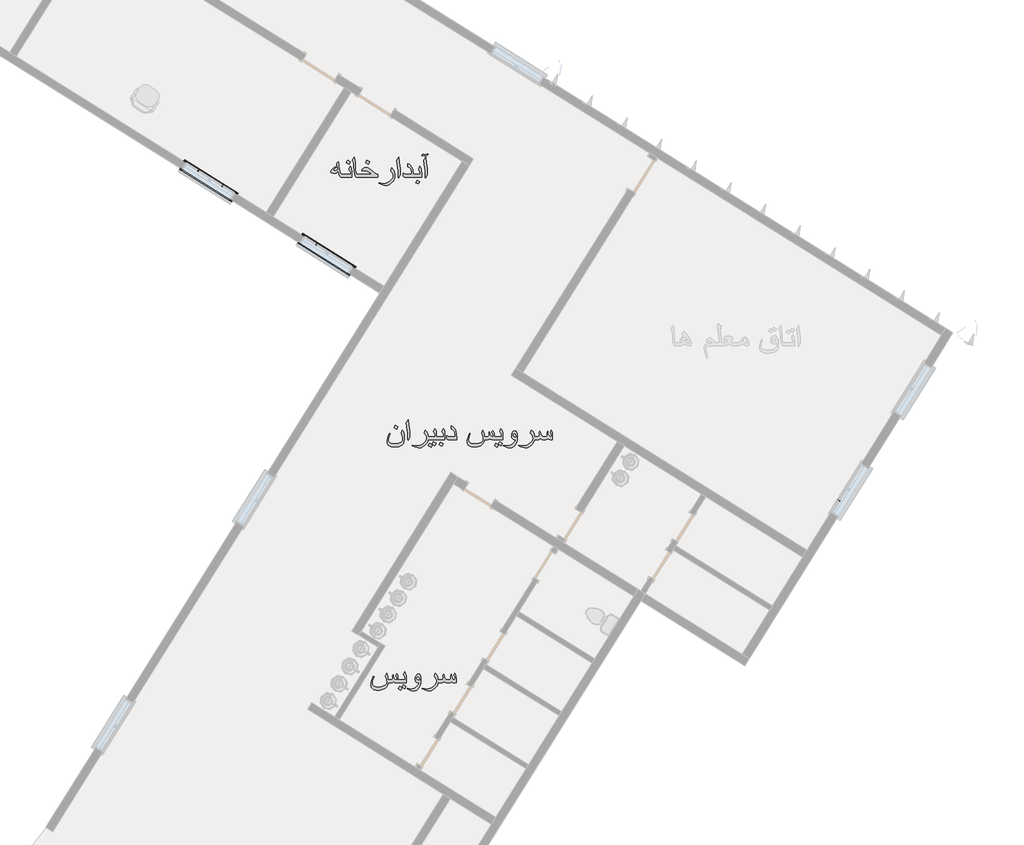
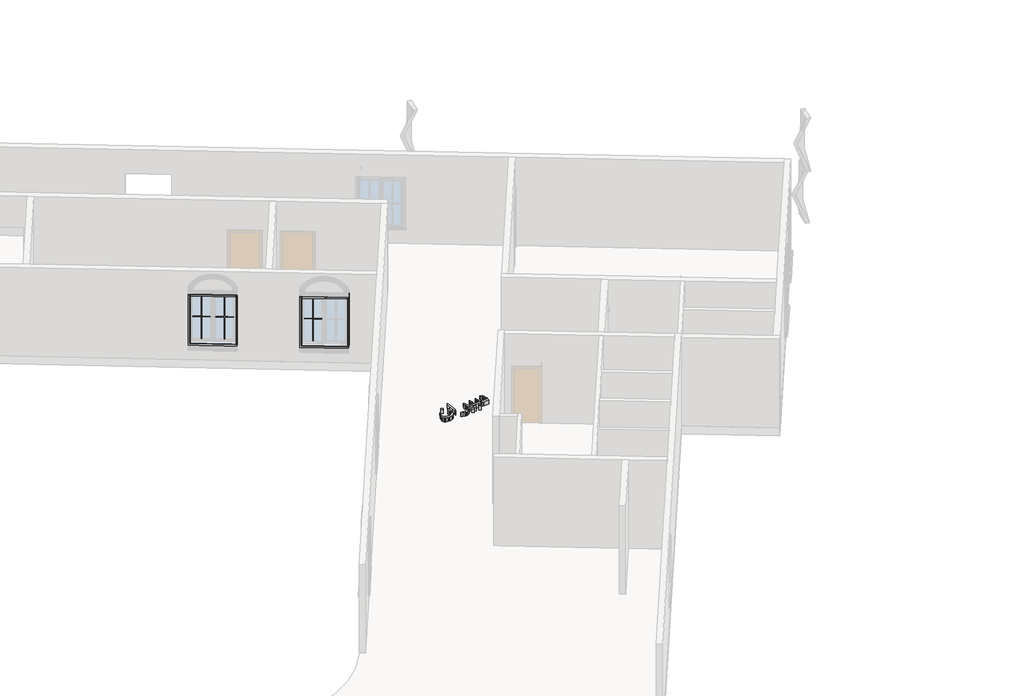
# One storey, part 9 of 12: 11 proxies.
"""IFC4 building model written with IfcOpenShell, lengths in millimetres."""

from ifc_helpers import new_model, si_unit, origin, origin_with_axes, place, context, project, spatial, polyline, outline, extrude, transform, mapped, element, save
from components import m_muntin_pattern_2x2_m_muntin_pattern_2x2_d2d4b859, m_muntin_pattern_2x2_m_muntin_pattern_2x2_f3921bb5, m_trim_window_exterior_flat_with_sill_88aaac3a, m_trim_window_interior_flat_picture_frame_896fcfd1

model = new_model("IFC4")

# Units and contexts
model_context = context("Model", 3, world=origin())
ifc_project = project(units=[si_unit("LENGTHUNIT", "METRE", prefix="MILLI")], contexts=[model_context])

# Site, building, storey
site = spatial("IfcSite", under=ifc_project)
building = spatial("IfcBuilding", under=site)
storey = spatial("IfcBuildingStorey", under=building, Name="\u200fهمکف", Elevation=0.0)

# Proxies
placement = place(None, origin())
element("IfcBuildingElementProxy", 1, Name="600mm Arial", ObjectType="600mm Arial", at=placement, inside=storey, context=model_context, shape_type="SweptSolid", body=[
    extrude(outline(polyline([(48086.9214701, -32228.1125939), (47879.7303304, -32228.1125939), (47851.4769932, -32228.1125939), (47823.8122672, -32228.1125939), (47810.1730422, -32224.5625326), (47797.3615517, -32213.9123488), (47785.3777957, -32196.1620426), (47774.2217742, -32171.3116138), (47759.7640118, -32122.7879786), (47748.4700345, -32061.9770848), (47734.6192774, -32088.372618), (47717.4943706, -32108.109487), (47698.2357481, -32120.4151398), (47677.9838443, -32124.517024), (47635.1071977, -32122.8063727), (47600.0664377, -32117.6744189), (47576.7243251, -32109.9305029), (47570.888797, -32105.3825617), (47568.9436209, -32100.3839651), (47571.7533196, -32080.900015), (47580.1824159, -32060.4135863), (47594.2309095, -32038.9246793), (47613.8988007, -32016.4332938), (47664.5009691, -31973.3727063), (47726.3971148, -31936.1614425), (47722.5711421, -31919.0181415), (47719.6280861, -31901.7276877), (47722.2400483, -31887.0491961), (47730.0759348, -31870.6784473), (47752.5903129, -31841.9836517), (47760.536564, -31893.3399782), (47770.1014959, -31944.6963048), (47781.7265669, -32018.4198566), (47799.2377499, -32108.1830634), (47811.4882203, -32141.6235368), (47817.7514113, -32149.9836551), (47824.1065728, -32152.7703612), (47851.4769932, -32152.7703612), (47879.7303304, -32152.7703612), (48058.6681329, -32152.7703612), (48055.9825943, -32110.868602), (48047.9259786, -32080.2240318), (48035.1604734, -32059.1443935), (48011.5792375, -32030.3392332), (48044.5414643, -31954.9970006), (48065.7314672, -31989.4675436), (48077.2093854, -32015.4768006), (48084.4934489, -32059.0708171), (48086.9214701, -32124.2227184), (48086.9214701, -32228.1125939)]), holes=[polyline([(47742.5839226, -32025.0417325), (47734.0490603, -31983.2503379), (47702.4847852, -31995.4088378), (47678.4253027, -32008.0455843), (47659.7368973, -32022.9631992), (47644.2858535, -32041.9643043), (47664.2986341, -32047.261805), (47695.9364856, -32049.1747914), (47719.8856035, -32043.1415267), (47742.5839226, -32025.0417325)])]), origin_with_axes(), (0.0, 0.0, 1.0), 150.0),
    extrude(outline(polyline([(48049.2503538, -31848.6055276), (48018.6425718, -31907.9081052), (47955.072563, -31873.4743505), (47984.0616643, -31813.7303145), (48049.2503538, -31848.6055276)])), origin_with_axes(), (0.0, 0.0, 1.0), 150.0),
    extrude(outline(polyline([(48717.9126682, -32228.1125939), (48275.2770516, -32228.1125939), (48247.0237144, -32228.1125939), (48219.653294, -32228.1125939), (48195.3730823, -32222.5575757), (48176.3903713, -32205.8925213), (48163.8455953, -32181.8698271), (48154.75891, -32148.3557773), (48143.4281446, -32054.1779865), (48138.4985258, -31960.7359598), (48131.7294971, -31888.0424775), (48120.4723081, -31847.575458), (48110.0980358, -31829.4756639), (48096.3392492, -31813.7303145), (48148.1370341, -31738.3880819), (48158.5480946, -31790.406596), (48165.3539115, -31851.6957364), (48171.6814818, -32046.0845826), (48180.6945907, -32103.7684795), (48193.0186375, -32136.1420951), (48204.9748024, -32148.6132947), (48217.8874604, -32152.7703612), (48247.0237144, -32152.7703612), (48275.2770516, -32152.7703612), (48576.6459821, -32152.7703612), (48506.1597918, -32102.5912571), (48472.0939191, -32083.2774523), (48441.1182551, -32070.0704887), (48407.7881463, -32061.46205), (48374.0165791, -32058.5925705), (48331.7837261, -32061.3884736), (48345.5793009, -32033.0247718), (48363.1272721, -32010.9150639), (48378.0356899, -31998.8117463), (48394.8019119, -31990.1665194), (48413.4259379, -31984.9793832), (48433.907768, -31983.2503379), (48455.8335349, -31985.8439059), (48479.6722882, -31993.6246101), (48505.4240278, -32006.5924505), (48533.0887539, -32024.7474269), (48625.6478638, -32103.7684795), (48667.4760467, -32138.6804808), (48693.1909982, -32152.7703612), (48717.9126682, -32152.7703612), (48717.9126682, -32228.1125939)])), origin_with_axes(), (0.0, 0.0, 1.0), 150.0),
    extrude(outline(polyline([(48520.1393076, -31848.6055276), (48489.5315256, -31907.9081052), (48425.9615169, -31873.4743505), (48454.9506181, -31813.7303145), (48520.1393076, -31848.6055276)])), origin_with_axes(), (0.0, 0.0, 1.0), 150.0),
    extrude(outline(polyline([(49132.2949476, -32231.2028026), (49129.8485323, -32253.772363), (49122.5092865, -32276.7465936), (49110.2772102, -32300.1254944), (49093.1523033, -32323.9090654), (49054.8189994, -32363.1988625), (49008.097986, -32396.6025476), (48964.0992994, -32418.5651028), (48928.6354751, -32425.8859545), (48898.7634571, -32423.7522389), (48866.5369943, -32417.3510922), (48805.7628887, -32397.1911588), (48746.1660055, -32374.0881695), (48753.082187, -32358.4899729), (48810.6925074, -32371.954454), (48864.9183135, -32378.7970591), (48891.9944284, -32376.7737081), (48919.6591544, -32370.7036552), (48947.9124916, -32360.5869003), (48976.75444, -32346.4234435), (49025.5907749, -32312.9461819), (49066.7383761, -32271.6698221), (49083.0585411, -32249.6428876), (49094.7158018, -32228.7379932), (49101.7101582, -32208.955139), (49104.0416104, -32190.2943247), (49099.001627, -32158.3253794), (49083.881677, -32124.8113296), (49064.2735667, -32096.7787216), (49038.1171568, -32068.0103495), (49061.6616045, -31992.6681169), (49092.1958101, -32023.5702045), (49113.4593895, -32054.4722921), (49127.5860581, -32091.4076444), (49132.2949476, -32132.4632751), (49132.2949476, -32231.2028026)])), origin_with_axes(), (0.0, 0.0, 1.0), 150.0),
    extrude(outline(polyline([(49273.5616338, -32124.9584824), (49270.287484, -32156.3756048), (49260.4650347, -32186.7626576), (49231.1816279, -32237.5303729), (49223.823988, -32233.5572474), (49225.663398, -32206.7018617), (49226.4727384, -32186.3211992), (49218.4529109, -32070.0704887), (49199.2494707, -31914.2356756), (49184.0927325, -31813.7303145), (49206.9014162, -31776.2799274), (49231.1816279, -31738.3880819), (49248.9135401, -31862.9529254), (49265.7625355, -32005.4704104), (49273.5616338, -32124.9584824)])), origin_with_axes(), (0.0, 0.0, 1.0), 150.0),
    extrude(outline(polyline([(49932.8061691, -32124.9584824), (49929.5320194, -32156.3756048), (49919.7095701, -32186.7626576), (49890.4261633, -32237.5303729), (49883.0685234, -32233.5572474), (49884.9079333, -32206.7018617), (49885.7172737, -32186.3211992), (49877.6974462, -32070.0704887), (49858.4940061, -31914.2356756), (49843.3372679, -31813.7303145), (49866.1459516, -31776.2799274), (49890.4261633, -31738.3880819), (49908.1580754, -31862.9529254), (49925.0070708, -32005.4704104), (49932.8061691, -32124.9584824)])), origin_with_axes(), (0.0, 0.0, 1.0), 150.0),
    extrude(outline(polyline([(49951.6417273, -31658.9255709), (49937.202359, -31677.6691586), (49920.6660633, -31690.6369989), (49900.8188296, -31698.1969739), (49876.4466474, -31700.7169656), (49863.4972012, -31699.6133196), (49850.2534494, -31696.8909928), (49821.8529594, -31691.2991865), (49807.7262908, -31694.4629716), (49796.8369837, -31700.7169656), (49791.539483, -31696.1552288), (49808.1677491, -31672.3900519), (49817.9534102, -31665.3818999), (49827.8862241, -31663.0458493), (49838.6283783, -31664.4438008), (49860.2598397, -31668.6376556), (49876.4466474, -31671.3599824), (49891.0147745, -31672.4636283), (49920.4453341, -31666.871822), (49946.3442265, -31653.6280702), (49951.6417273, -31658.9255709)])), origin_with_axes(), (0.0, 0.0, 1.0), 150.0),
    extrude(outline(polyline([(49791.539483, -32228.1125939), (49584.3483433, -32228.1125939), (49556.095006, -32228.1125939), (49401.4374153, -32228.1125939), (49379.3644956, -32224.6728972), (49359.6460206, -32214.3538072), (49345.7400812, -32199.3258277), (49341.1047681, -32181.7594625), (49342.7234488, -32152.917514), (49348.9038664, -32124.517024), (49358.3216454, -32124.517024), (49364.5388512, -32137.9447168), (49374.3613004, -32147.0314021), (49385.7656423, -32151.3356215), (49400.8488041, -32152.7703612), (49556.095006, -32152.7703612), (49551.0550227, -32087.8759773), (49544.7550435, -32060.726286), (49535.9350727, -32037.108262), (49521.3393546, -32012.0922863), (49502.5681758, -31991.6380474), (49479.6215363, -31975.7455452), (49452.4994362, -31964.4147797), (49457.2083257, -31889.0725471), (49490.8419372, -31908.8462043), (49519.1964419, -31933.7334213), (49542.2718401, -31963.734198), (49560.0681316, -31998.8485345), (49570.6907242, -32031.5624409), (49578.2782904, -32068.9300545), (49582.83083, -32110.9513754), (49584.1904621, -32152.7703612), (49763.2861457, -32152.7703612), (49760.6006072, -32110.868602), (49752.5439915, -32080.2240318), (49739.7784862, -32059.1443935), (49716.1972504, -32030.3392332), (49749.1594771, -31954.9970006), (49770.34948, -31989.4675436), (49781.8273983, -32015.4768006), (49789.1114618, -32059.0708171), (49791.539483, -32124.2227184), (49791.539483, -32228.1125939)])), origin_with_axes(), (0.0, 0.0, 1.0), 150.0),
    extrude(outline(polyline([(49744.4505876, -32328.9122605), (49713.8428056, -32388.2148382), (49650.2727968, -32353.7810834), (49679.261898, -32294.0370474), (49744.4505876, -32328.9122605)])), origin_with_axes(), (0.0, 0.0, 1.0), 150.0),
])
element("IfcBuildingElementProxy", 2, Name="600mm Arial", ObjectType="600mm Arial", at=placement, inside=storey, context=model_context, shape_type="SweptSolid", body=[
    extrude(outline(polyline([(49364.4496442, -38639.2714997), (49361.0835239, -38682.286102), (49350.9851631, -38719.2122572), (49334.1545619, -38750.0499655), (49310.5917201, -38774.7992267), (49277.1604438, -38795.2074804), (49234.8448173, -38809.7848044), (49183.6448406, -38818.5311989), (49123.5605137, -38821.4466637), (49084.8501308, -38819.6440419), (49050.9773961, -38814.2361766), (49021.9423096, -38805.2230677), (48997.7448714, -38792.6047153), (48976.8859622, -38774.6060887), (48961.9867414, -38752.3952132), (48953.047209, -38725.9720889), (48950.0673648, -38695.3367157), (48952.1458981, -38659.7809209), (48958.3814979, -38623.7468795), (48981.1166052, -38550.832668), (49011.2829288, -38482.4066169), (49025.4095974, -38489.7642568), (49001.5892382, -38541.9851061), (48987.5177519, -38581.808332), (48980.6199645, -38614.0531889), (48978.320702, -38643.5389308), (48980.6291615, -38667.1293638), (48987.5545401, -38687.7215584), (48999.0968377, -38705.3155149), (49015.2560543, -38719.911233), (49035.7010962, -38731.3707572), (49060.1008696, -38739.5561316), (49088.4553743, -38744.4673562), (49120.7646106, -38746.1044311), (49159.0795204, -38744.3385975), (49195.15035, -38739.0410968), (49228.9770994, -38730.2119289), (49260.5597687, -38717.8510939), (49293.6507542, -38698.6016685), (49317.2871724, -38675.8757582), (49331.4690233, -38649.6733631), (49336.1963069, -38619.9944831), (49332.8117926, -38578.3870295), (49322.6582495, -38539.7962082), (49308.3844281, -38508.967697), (49289.1074116, -38482.4066169), (49322.0696383, -38407.0643843), (49342.4503009, -38440.7991633), (49355.3261707, -38475.1961298), (49362.1687758, -38515.5895729), (49364.4496442, -38567.3137814), (49364.4496442, -38639.2714997)])), origin_with_axes(), (0.0, 0.0, 1.0), 150.0),
    extrude(outline(polyline([(49213.7651789, -38328.9262486), (49183.1573969, -38388.2288262), (49119.5873882, -38353.7950714), (49148.5764894, -38294.0510354), (49213.7651789, -38328.9262486)])), origin_with_axes(), (0.0, 0.0, 1.0), 150.0),
    extrude(outline(polyline([(49505.7163303, -38539.3547498), (49502.4421806, -38570.7718722), (49492.6197313, -38601.158925), (49463.3363245, -38651.9266403), (49455.9786846, -38647.9535148), (49457.8180945, -38621.0981291), (49458.6274349, -38600.7174666), (49450.6076074, -38484.4667561), (49431.4041673, -38328.631943), (49416.2474291, -38228.1265819), (49439.0561128, -38190.6761948), (49463.3363245, -38152.7843493), (49481.0682366, -38277.3491928), (49497.917232, -38419.8666778), (49505.7163303, -38539.3547498)])), origin_with_axes(), (0.0, 0.0, 1.0), 150.0),
    extrude(outline(polyline([(50362.7342263, -38642.5088612), (50155.5430866, -38642.5088612), (50127.2897494, -38642.5088612), (49948.3519469, -38642.5088612), (49948.3519469, -38645.59907), (49945.9055316, -38668.1686304), (49938.5662858, -38691.142861), (49926.3342095, -38714.5217618), (49909.2093026, -38738.3053328), (49870.8759987, -38777.5951299), (49824.1549853, -38810.998815), (49780.1562987, -38832.9613701), (49744.6924744, -38840.2822218), (49714.8204564, -38838.1485063), (49682.5939936, -38831.7473596), (49621.819888, -38811.5874262), (49562.2230048, -38788.4844369), (49569.1391863, -38772.8862403), (49626.7495067, -38786.3507214), (49680.9753128, -38793.1933265), (49708.0514277, -38791.1699755), (49735.7161537, -38785.0999226), (49763.9694909, -38774.9831677), (49792.8114393, -38760.8197109), (49841.6477742, -38727.3424493), (49882.7953754, -38686.0660895), (49899.1155404, -38664.039155), (49910.7728011, -38643.1342606), (49917.7671575, -38623.3514063), (49920.0986097, -38604.6905921), (49915.0586263, -38572.7216468), (49899.9386763, -38539.207597), (49880.330566, -38511.174989), (49854.1741561, -38482.4066169), (49877.7186038, -38407.0643843), (49908.2528094, -38437.9664719), (49929.5163888, -38468.8685595), (49943.6430574, -38505.8039118), (49948.3519469, -38546.8595425), (49948.3519469, -38567.1666286), (50127.2897494, -38567.1666286), (50124.6042108, -38525.2648694), (50116.5475951, -38494.6202992), (50103.7820899, -38473.5406609), (50080.200854, -38444.7355006), (50113.1630807, -38369.393268), (50134.3530837, -38403.863811), (50145.8310019, -38429.873068), (50153.1150654, -38473.4670845), (50155.5430866, -38538.6189858), (50155.5430866, -38567.1666286), (50334.480889, -38567.1666286), (50331.7953505, -38525.2648694), (50323.7387348, -38494.6202992), (50310.9732296, -38473.5406609), (50287.3919937, -38444.7355006), (50320.3542204, -38369.393268), (50341.5442234, -38403.863811), (50353.0221416, -38429.873068), (50360.3062051, -38473.4670845), (50362.7342263, -38538.6189858), (50362.7342263, -38642.5088612)])), origin_with_axes(), (0.0, 0.0, 1.0), 150.0),
    extrude(outline(polyline([(50315.6453309, -38743.3085279), (50285.0375489, -38802.6111055), (50221.4675401, -38768.1773508), (50250.4566413, -38708.4333148), (50315.6453309, -38743.3085279)])), origin_with_axes(), (0.0, 0.0, 1.0), 150.0),
    extrude(outline(polyline([(50146.1253075, -38724.1786642), (50116.8419007, -38783.7755474), (50051.9475168, -38749.1946398), (50081.9666876, -38689.5977566), (50146.1253075, -38724.1786642)])), origin_with_axes(), (0.0, 0.0, 1.0), 150.0),
    extrude(outline(polyline([(50051.9475168, -38762.5855445), (50022.5169571, -38821.4466637), (49957.769726, -38786.4242978), (49988.377508, -38727.2688729), (50051.9475168, -38762.5855445)])), origin_with_axes(), (0.0, 0.0, 1.0), 150.0),
    extrude(outline(polyline([(50645.2675986, -38642.5088612), (50462.3566706, -38642.5088612), (50440.2837509, -38639.0691646), (50420.5652759, -38628.7500746), (50406.6593365, -38613.7220951), (50402.0240234, -38596.1557299), (50403.6427041, -38567.3137814), (50409.8231217, -38538.9132914), (50419.2409007, -38538.9132914), (50425.4581065, -38552.3409842), (50435.2805557, -38561.4276695), (50446.6848976, -38565.7318888), (50461.7680594, -38567.1666286), (50617.0142613, -38567.1666286), (50611.974278, -38502.2722447), (50605.6742988, -38475.1225534), (50596.854328, -38451.5045293), (50582.2586098, -38426.4885537), (50563.487431, -38406.0343147), (50540.5407916, -38390.1418126), (50513.4186915, -38378.8110471), (50518.127581, -38303.4688145), (50551.7611924, -38323.2424717), (50580.1156972, -38348.1296887), (50603.1910954, -38378.1304654), (50620.9873869, -38413.2448018), (50631.6099795, -38445.9587083), (50639.1975457, -38483.3263219), (50643.7500853, -38525.3476428), (50645.2675986, -38572.022671), (50645.2675986, -38642.5088612)])), origin_with_axes(), (0.0, 0.0, 1.0), 150.0),
    extrude(outline(polyline([(51775.4010878, -38642.5088612), (51568.2099481, -38642.5088612), (51539.9566108, -38642.5088612), (51536.5720965, -38642.5088612), (51513.9105656, -38640.8166041), (51494.1920906, -38635.7398325), (51475.7979909, -38626.984241), (51457.1095855, -38614.255524), (51441.2170833, -38627.2785466), (51427.0904147, -38635.1512213), (51404.09779, -38640.6694513), (51372.4967266, -38642.5088612), (51323.3476921, -38642.5088612), (51318.8227435, -38679.3706372), (51305.2478979, -38715.2023435), (51292.0041461, -38736.8981842), (51275.6701855, -38756.221186), (51256.2460162, -38773.1713489), (51233.7316381, -38787.7486729), (51201.5971458, -38802.4915439), (51165.6734689, -38813.022166), (51125.9606076, -38819.3405393), (51082.4585616, -38821.4466637), (51043.7481787, -38819.6440419), (51009.875444, -38814.2361766), (50980.8403575, -38805.2230677), (50956.6429193, -38792.6047153), (50935.7840102, -38774.6060887), (50920.8847894, -38752.3952132), (50911.9452569, -38725.9720889), (50908.9654127, -38695.3367157), (50911.043946, -38659.7809209), (50917.2795458, -38623.7468795), (50940.0146531, -38550.832668), (50970.1809767, -38482.4066169), (50984.3076453, -38489.7642568), (50960.4872861, -38541.9851061), (50946.4157998, -38581.808332), (50939.5180124, -38614.0531889), (50937.2187499, -38643.5389308), (50939.5502021, -38667.1293638), (50946.5445585, -38687.7215584), (50958.2018192, -38705.3155149), (50974.5219843, -38719.911233), (50995.1555657, -38731.3707572), (51019.7530756, -38739.5561316), (51048.314514, -38744.4673562), (51080.8398809, -38746.1044311), (51120.2216484, -38744.3385975), (51157.4329123, -38739.0410968), (51192.4736723, -38730.2119289), (51225.3439286, -38717.8510939), (51259.9800184, -38698.6016685), (51284.7200826, -38675.8757582), (51299.5641211, -38649.6733631), (51304.5121339, -38619.9944831), (51300.8701022, -38578.8284879), (51289.9440069, -38539.7962082), (51276.0748557, -38510.439225), (51257.4232385, -38482.4066169), (51290.3854653, -38407.0643843), (51305.2478979, -38438.9597533), (51314.5185242, -38466.9555731), (51321.1404001, -38510.3288604), (51323.3476921, -38567.1666286), (51372.938185, -38567.1666286), (51405.6428944, -38564.1132081), (51427.2375675, -38554.9529464), (51437.832569, -38541.4884654), (51441.3642361, -38522.2850252), (51440.1134374, -38497.5633551), (51436.361041, -38470.1929347), (51450.4877096, -38444.7355006), (51457.1095855, -38486.2325897), (51467.7781634, -38522.2850252), (51481.53695, -38546.5652369), (51501.9911889, -38562.0162807), (51529.5087622, -38567.1666286), (51537.9700481, -38565.6215243), (51544.224042, -38560.9862111), (51549.3743899, -38545.3880145), (51546.2106048, -38523.167942), (51536.7192493, -38499.4763415), (51511.7032736, -38463.5710588), (51535.2477213, -38416.4821634), (51559.0864746, -38461.3637668), (51565.9290797, -38494.5099346), (51568.2099481, -38539.7962082), (51568.2099481, -38567.1666286), (51747.1477505, -38567.1666286), (51744.462212, -38525.2648694), (51736.4055963, -38494.6202992), (51723.640091, -38473.5406609), (51700.0588551, -38444.7355006), (51733.0210819, -38369.393268), (51754.2110848, -38403.863811), (51765.6890031, -38429.873068), (51772.9730666, -38473.4670845), (51775.4010878, -38538.6189858), (51775.4010878, -38642.5088612)])), origin_with_axes(), (0.0, 0.0, 1.0), 150.0),
    extrude(outline(polyline([(51765.9833087, -38724.1786642), (51736.6999019, -38783.7755474), (51671.8055179, -38749.1946398), (51701.8246887, -38689.5977566), (51765.9833087, -38724.1786642)])), origin_with_axes(), (0.0, 0.0, 1.0), 150.0),
    extrude(outline(polyline([(51671.8055179, -38762.5855445), (51642.3749583, -38821.4466637), (51577.6277271, -38786.4242978), (51608.2355091, -38727.2688729), (51671.8055179, -38762.5855445)])), origin_with_axes(), (0.0, 0.0, 1.0), 150.0),
    extrude(outline(polyline([(52133.2766927, -38616.6099688), (52130.1772869, -38652.7543748), (52120.8790694, -38688.7884162), (52105.3820404, -38724.7120931), (52083.6861997, -38760.5254053), (52055.0281923, -38795.4190125), (52024.2364693, -38820.3430177), (51991.3110307, -38835.2974208), (51956.2518766, -38840.2822218), (51929.0653971, -38838.2956591), (51901.0695773, -38832.3359708), (51847.0645004, -38812.3231902), (51794.2366459, -38788.4844369), (51801.1528274, -38773.9163099), (51848.6831812, -38786.5714506), (51893.4176318, -38793.1933265), (51917.7438287, -38791.5562516), (51941.4262322, -38786.645027), (51964.4648421, -38778.4596526), (51986.8596586, -38767.0001284), (52021.2934133, -38741.7266353), (52055.7271681, -38707.1089396), (52105.0233554, -38642.5088612), (52057.0515433, -38637.8367599), (52038.2527733, -38631.9966332), (52022.9120941, -38623.8204559), (52009.3924308, -38611.4320297), (51999.7355284, -38595.6039069), (51993.941387, -38576.3360874), (51992.0100065, -38553.6285712), (51996.9396253, -38510.3656486), (52011.7284815, -38470.3400875), (52023.9145725, -38450.8975241), (52037.6641621, -38437.0099787), (52052.9772502, -38428.6774515), (52069.8538367, -38425.8999425), (52086.4085265, -38428.6682545), (52100.4616187, -38436.9731905), (52112.0131133, -38450.8147506), (52121.0630104, -38470.1929347), (52130.2232721, -38511.6164474), (52133.2766927, -38566.7251702), (52133.2766927, -38616.6099688)]), holes=[polyline([(52105.0233554, -38567.1666286), (52095.3112708, -38534.6826485), (52083.8333525, -38514.0444685), (52071.7668231, -38504.4427485), (52057.3458489, -38501.2421751), (52046.8980002, -38503.0815851), (52037.9216795, -38508.599815), (52031.741262, -38516.9139481), (52029.6811228, -38527.1410676), (52034.0957068, -38544.4683095), (52047.3394586, -38557.0130856), (52070.5896007, -38564.6282429), (52105.0233554, -38567.1666286)])]), origin_with_axes(), (0.0, 0.0, 1.0), 150.0),
    extrude(outline(polyline([(52990.2945886, -38642.5088612), (52959.2453482, -38642.5088612), (52935.3146244, -38640.614269), (52915.0259324, -38634.9304921), (52897.3492025, -38625.7886246), (52881.2543653, -38613.51976), (52863.6328177, -38626.8370882), (52848.4392913, -38634.7097629), (52824.1958678, -38640.5590867), (52792.3740752, -38642.5088612), (52766.32803, -38642.5088612), (52745.5426972, -38640.3383575), (52724.6837881, -38633.8268462), (52691.1329501, -38615.2855936), (52671.9479041, -38628.4373749), (52654.418327, -38636.6963257), (52632.474166, -38641.0557274), (52600.0453681, -38642.5088612), (52547.658972, -38642.5088612), (52547.658972, -38645.59907), (52545.2125568, -38668.1686304), (52537.873311, -38691.142861), (52525.6412346, -38714.5217618), (52508.5163277, -38738.3053328), (52470.1830238, -38777.5951299), (52423.4620105, -38810.998815), (52379.4633238, -38832.9613701), (52343.9994995, -38840.2822218), (52314.1274815, -38838.1485063), (52281.9010187, -38831.7473596), (52221.1269131, -38811.5874262), (52161.5300299, -38788.4844369), (52168.4462114, -38772.8862403), (52226.0565318, -38786.3507214), (52280.2823379, -38793.1933265), (52307.3584528, -38791.1699755), (52335.0231788, -38785.0999226), (52363.276516, -38774.9831677), (52392.1184645, -38760.8197109), (52440.9547993, -38727.3424493), (52482.1024005, -38686.0660895), (52498.4225655, -38664.039155), (52510.0798262, -38643.1342606), (52517.0741827, -38623.3514063), (52519.4056348, -38604.6905921), (52514.3656515, -38572.7216468), (52499.2457015, -38539.207597), (52479.6375911, -38511.174989), (52453.4811813, -38482.4066169), (52477.025629, -38407.0643843), (52507.5598346, -38437.9664719), (52528.8234139, -38468.8685595), (52542.9500825, -38505.8039118), (52547.658972, -38546.8595425), (52547.658972, -38567.1666286), (52601.2225905, -38567.1666286), (52630.6531501, -38565.5847361), (52650.3716251, -38560.8390583), (52661.1229764, -38554.2355765), (52668.802513, -38545.0201325), (52673.410235, -38533.1927264), (52674.9461424, -38518.7533581), (52673.9160728, -38492.3394308), (52670.0901, -38462.688142), (52684.2167686, -38435.3177216), (52702.7580212, -38496.3861328), (52716.2960786, -38525.6327514), (52731.0113584, -38546.5652369), (52751.392021, -38562.0162807), (52775.4515034, -38567.1666286), (52802.5276183, -38567.1666286), (52828.8679691, -38564.5546665), (52847.2620689, -38556.71878), (52859.4021747, -38541.2677362), (52863.4488767, -38518.7533581), (52862.1245015, -38491.3829376), (52858.4456816, -38462.688142), (52872.5723502, -38435.3177216), (52881.2543653, -38478.5806442), (52893.6887767, -38521.9539314), (52908.6247857, -38549.6554457), (52925.1058991, -38562.7888329), (52946.5902076, -38567.1666286), (52956.6885684, -38565.2352482), (52964.6164254, -38559.4411067), (52969.7483792, -38550.6303329), (52971.4590305, -38539.6490554), (52967.1548111, -38512.7568815), (52954.2421531, -38484.4667561), (52933.7879142, -38454.1532797), (52957.3323619, -38407.0643843), (52971.9372771, -38432.816124), (52981.0239623, -38454.7418909), (52987.9769321, -38490.0953506), (52990.2945886, -38535.528777), (52990.2945886, -38642.5088612)])), origin_with_axes(), (0.0, 0.0, 1.0), 150.0),
])
element("IfcBuildingElementProxy", 3, Name="600mm Arial", ObjectType="600mm Arial", at=placement, inside=storey, context=model_context, shape_type="SweptSolid", body=[
    extrude(outline(polyline([(49418.9530591, -44587.3462107), (49211.7619194, -44587.3462107), (49183.5085822, -44587.3462107), (49180.1240678, -44587.3462107), (49157.4625369, -44585.6539536), (49137.744062, -44580.577182), (49119.3499622, -44571.8215905), (49100.6615569, -44559.0928735), (49084.7690547, -44572.1158961), (49070.6423861, -44579.9885708), (49047.6497614, -44585.5068008), (49016.048698, -44587.3462107), (48966.8996634, -44587.3462107), (48962.3747149, -44624.2079867), (48948.7998692, -44660.039693), (48935.5561174, -44681.7355336), (48919.2221568, -44701.0585354), (48899.7979875, -44718.0086984), (48877.2836094, -44732.5860224), (48845.1491171, -44747.3288934), (48809.2254403, -44757.8595155), (48769.5125789, -44764.1778888), (48726.010533, -44766.2840132), (48687.30015, -44764.4813914), (48653.4274153, -44759.0735261), (48624.3923289, -44750.0604172), (48600.1948906, -44737.4420648), (48579.3359815, -44719.4434382), (48564.4367607, -44697.2325627), (48555.4972282, -44670.8094384), (48552.517384, -44640.1740652), (48554.5959173, -44604.6182704), (48560.8315171, -44568.584229), (48583.5666244, -44495.6700175), (48613.732948, -44427.2439664), (48627.8596167, -44434.6016063), (48604.0392575, -44486.8224556), (48589.9677712, -44526.6456815), (48583.0699837, -44558.8905384), (48580.7707213, -44588.3762803), (48583.1021734, -44611.9667133), (48590.0965299, -44632.5589079), (48601.7537906, -44650.1528644), (48618.0739556, -44664.7485825), (48638.707537, -44676.2081067), (48663.3050469, -44684.3934811), (48691.8664853, -44689.3047057), (48724.3918522, -44690.9417806), (48763.7736198, -44689.175947), (48800.9848836, -44683.8784463), (48836.0256436, -44675.0492784), (48868.8958999, -44662.6884433), (48903.5319897, -44643.4390179), (48928.2720539, -44620.7131077), (48943.1160924, -44594.5107126), (48948.0641053, -44564.8318326), (48944.4220735, -44523.6658374), (48933.4959782, -44484.6335577), (48919.626827, -44455.2765745), (48900.9752099, -44427.2439664), (48933.9374366, -44351.9017338), (48948.7998692, -44383.7971028), (48958.0704955, -44411.7929226), (48964.6923714, -44455.1662099), (48966.8996634, -44512.0039781), (49016.4901564, -44512.0039781), (49049.1948657, -44508.9505576), (49070.7895388, -44499.7902959), (49081.3845403, -44486.3258149), (49084.9162075, -44467.1223747), (49083.6654087, -44442.4007046), (49079.9130123, -44415.0302842), (49094.0396809, -44389.5728501), (49100.6615569, -44431.0699392), (49111.3301347, -44467.1223747), (49125.0889213, -44491.4025864), (49145.5431603, -44506.8536302), (49173.0607335, -44512.0039781), (49181.5220194, -44510.4588737), (49187.7760133, -44505.8235606), (49192.9263612, -44490.225364), (49189.7625761, -44468.0052915), (49180.2712206, -44444.313691), (49155.2552449, -44408.4084083), (49178.7996926, -44361.3195129), (49202.6384459, -44406.2011163), (49209.481051, -44439.3472841), (49211.7619194, -44484.6335577), (49211.7619194, -44512.0039781), (49390.6997219, -44512.0039781), (49388.0141833, -44470.1022189), (49379.9575676, -44439.4576487), (49367.1920624, -44418.3780104), (49343.6108265, -44389.5728501), (49376.5730532, -44314.2306175), (49397.7630562, -44348.7011605), (49409.2409744, -44374.7104175), (49416.5250379, -44418.304434), (49418.9530591, -44483.4563353), (49418.9530591, -44587.3462107)])), origin_with_axes(), (0.0, 0.0, 1.0), 150.0),
    extrude(outline(polyline([(49409.53528, -44669.0160137), (49380.2518732, -44728.6128969), (49315.3574892, -44694.0319893), (49345.37666, -44634.4351061), (49409.53528, -44669.0160137)])), origin_with_axes(), (0.0, 0.0, 1.0), 150.0),
    extrude(outline(polyline([(49315.3574892, -44707.422894), (49285.9269296, -44766.2840132), (49221.1796985, -44731.2616472), (49251.7874805, -44672.1062224), (49315.3574892, -44707.422894)])), origin_with_axes(), (0.0, 0.0, 1.0), 150.0),
    extrude(outline(polyline([(49776.828664, -44561.4473183), (49773.7292582, -44597.5917243), (49764.4310408, -44633.6257657), (49748.9340117, -44669.5494426), (49727.238171, -44705.3627548), (49698.5801636, -44740.256362), (49667.7884406, -44765.1803672), (49634.8630021, -44780.1347703), (49599.8038479, -44785.1195713), (49572.6173685, -44783.1330086), (49544.6215486, -44777.1733202), (49490.6164717, -44757.1605397), (49437.7886172, -44733.3217864), (49444.7047987, -44718.7536594), (49492.2351525, -44731.4088), (49536.9696031, -44738.030676), (49561.2958001, -44736.3936011), (49584.9782035, -44731.4823764), (49608.0168135, -44723.2970021), (49630.4116299, -44711.8374779), (49664.8453847, -44686.5639848), (49699.2791394, -44651.9462891), (49748.5753268, -44587.3462107), (49700.6035146, -44582.6741094), (49681.8047446, -44576.8339827), (49666.4640654, -44568.6578054), (49652.9444021, -44556.2693792), (49643.2874997, -44540.4412564), (49637.4933583, -44521.1734369), (49635.5619778, -44498.4659207), (49640.4915966, -44455.2029981), (49655.2804528, -44415.177437), (49667.4665439, -44395.7348735), (49681.2161334, -44381.8473282), (49696.5292215, -44373.514801), (49713.405808, -44370.737292), (49729.9604978, -44373.505604), (49744.01359, -44381.81054), (49755.5650847, -44395.6521001), (49764.6149818, -44415.0302842), (49773.7752434, -44456.4537969), (49776.828664, -44511.5625197), (49776.828664, -44561.4473183)]), holes=[polyline([(49748.5753268, -44512.0039781), (49738.8632421, -44479.5199979), (49727.3853238, -44458.881818), (49715.3187944, -44449.2800979), (49700.8978202, -44446.0795246), (49690.4499715, -44447.9189346), (49681.4736508, -44453.4371645), (49675.2932333, -44461.7512976), (49673.2330942, -44471.978417), (49677.6476781, -44489.305659), (49690.8914299, -44501.8504351), (49714.141572, -44509.4655924), (49748.5753268, -44512.0039781)])]), origin_with_axes(), (0.0, 0.0, 1.0), 150.0),
    extrude(outline(polyline([(50633.84656, -44587.3462107), (50602.7973196, -44587.3462107), (50578.8665958, -44585.4516185), (50558.5779037, -44579.7678416), (50540.9011739, -44570.6259741), (50524.8063366, -44558.3571095), (50507.184789, -44571.6744377), (50491.9912626, -44579.5471124), (50467.7478391, -44585.3964362), (50435.9260466, -44587.3462107), (50409.8800013, -44587.3462107), (50389.0946686, -44585.175707), (50368.2357594, -44578.6641956), (50334.6849215, -44560.1229431), (50315.4998754, -44573.2747244), (50297.9702984, -44581.5336752), (50276.0261373, -44585.8930769), (50243.5973395, -44587.3462107), (50191.2109434, -44587.3462107), (50191.2109434, -44590.4364195), (50188.7645281, -44613.0059799), (50181.4252823, -44635.9802105), (50169.1932059, -44659.3591113), (50152.0682991, -44683.1426823), (50113.7349952, -44722.4324794), (50067.0139818, -44755.8361645), (50023.0152952, -44777.7987196), (49987.5514708, -44785.1195713), (49957.6794528, -44782.9858558), (49925.45299, -44776.5847091), (49864.6788844, -44756.4247757), (49805.0820012, -44733.3217864), (49811.9981827, -44717.7235898), (49869.6085032, -44731.1880708), (49923.8343093, -44738.030676), (49950.9104241, -44736.007325), (49978.5751501, -44729.9372721), (50006.8284874, -44719.8205172), (50035.6704358, -44705.6570604), (50084.5067707, -44672.1797988), (50125.6543718, -44630.903439), (50141.9745368, -44608.8765045), (50153.6317976, -44587.9716101), (50160.626154, -44568.1887558), (50162.9576061, -44549.5279416), (50157.9176228, -44517.5589963), (50142.7976728, -44484.0449465), (50123.1895625, -44456.0123385), (50097.0331526, -44427.2439664), (50120.5776003, -44351.9017338), (50151.1118059, -44382.8038214), (50172.3753852, -44413.705909), (50186.5020538, -44450.6412613), (50191.2109434, -44491.696892), (50191.2109434, -44512.0039781), (50244.7745619, -44512.0039781), (50274.2051215, -44510.4220855), (50293.9235964, -44505.6764078), (50304.6749477, -44499.072926), (50312.3544844, -44489.857482), (50316.9622064, -44478.0300759), (50318.4981137, -44463.5907076), (50317.4680441, -44437.1767803), (50313.6420714, -44407.5254915), (50327.76874, -44380.1550711), (50346.3099925, -44441.2234823), (50359.8480499, -44470.4701009), (50374.5633298, -44491.4025864), (50394.9439923, -44506.8536302), (50419.0034748, -44512.0039781), (50446.0795896, -44512.0039781), (50472.4199405, -44509.392016), (50490.8140402, -44501.5561295), (50502.9541461, -44486.1050857), (50507.000848, -44463.5907076), (50505.6764728, -44436.2202871), (50501.9976529, -44407.5254915), (50516.1243215, -44380.1550711), (50524.8063366, -44423.4179937), (50537.240748, -44466.7912809), (50552.176757, -44494.4927952), (50568.6578704, -44507.6261824), (50590.1421789, -44512.0039781), (50600.2405397, -44510.0725976), (50608.1683967, -44504.2784562), (50613.3003505, -44495.4676824), (50615.0110018, -44484.4864049), (50610.7067825, -44457.594231), (50597.7941244, -44429.3041056), (50577.3398855, -44398.9906292), (50600.8843332, -44351.9017338), (50615.4892484, -44377.6534735), (50624.5759337, -44399.5792404), (50631.5289034, -44434.9327001), (50633.84656, -44480.3661265), (50633.84656, -44587.3462107)])), origin_with_axes(), (0.0, 0.0, 1.0), 150.0),
])
m_muntin_pattern_2x2_m_muntin_pattern_2x2_shape = m_muntin_pattern_2x2_m_muntin_pattern_2x2_d2d4b859(model_context)
element("IfcBuildingElementProxy", 4, Name="M_Muntin Pattern_2x2 : M_Muntin Pattern_2x2", ObjectType="M_Muntin Pattern_2x2 : M_Muntin Pattern_2x2", at=placement, inside=storey, context=model_context, shape_type="MappedRepresentation", body=[
    mapped(m_muntin_pattern_2x2_m_muntin_pattern_2x2_shape, transform((47216.1575585, -33860.2772011, 669.85), x_axis=(0.8480480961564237, -0.5299192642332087, 0.0), y_axis=(0.5299192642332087, 0.8480480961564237, 0.0), z_axis=(0.0, 0.0, 1.0))),
])
element("IfcBuildingElementProxy", 5, Name="M_Muntin Pattern_2x2 : M_Muntin Pattern_2x2", ObjectType="M_Muntin Pattern_2x2 : M_Muntin Pattern_2x2", at=placement, inside=storey, context=model_context, shape_type="MappedRepresentation", body=[
    mapped(m_muntin_pattern_2x2_m_muntin_pattern_2x2_shape, transform((44332.7940316, -32058.5517027, 669.85), x_axis=(0.8480480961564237, -0.5299192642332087, 0.0), y_axis=(0.5299192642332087, 0.8480480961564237, 0.0), z_axis=(0.0, 0.0, 1.0))),
])
element("IfcBuildingElementProxy", 6, Name="M_Muntin Pattern_2x2 : M_Muntin Pattern_2x2", ObjectType="M_Muntin Pattern_2x2 : M_Muntin Pattern_2x2", at=placement, inside=storey, context=model_context, shape_type="MappedRepresentation", body=[
    mapped(m_muntin_pattern_2x2_m_muntin_pattern_2x2_shape, transform((59997.0411619, -40123.7473503, 669.85), x_axis=(0.5299192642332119, 0.8480480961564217, 0.0), y_axis=(-0.8480480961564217, 0.5299192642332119, 0.0), z_axis=(0.0, 0.0, 1.0))),
])
m_muntin_pattern_2x2_m_muntin_pattern_2x2_2_shape = m_muntin_pattern_2x2_m_muntin_pattern_2x2_f3921bb5(model_context)
element("IfcBuildingElementProxy", 7, Name="M_Muntin Pattern_2x2 : M_Muntin Pattern_2x2", ObjectType="M_Muntin Pattern_2x2 : M_Muntin Pattern_2x2", at=placement, inside=storey, context=model_context, shape_type="MappedRepresentation", body=[
    mapped(m_muntin_pattern_2x2_m_muntin_pattern_2x2_2_shape, transform((44923.7351462, -32427.812694, 669.85), x_axis=(-0.8480480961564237, 0.5299192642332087, 0.0), y_axis=(-0.5299192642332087, -0.8480480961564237, 0.0), z_axis=(0.0, 0.0, 1.0))),
])
m_trim_window_exterior_flat_with_sill_shape = m_trim_window_exterior_flat_with_sill_88aaac3a(model_context)
element("IfcBuildingElementProxy", 8, Name="M_Trim-Window-Exterior-Flat : with Sill", ObjectType="M_Trim-Window-Exterior-Flat : with Sill", at=placement, inside=storey, context=model_context, shape_type="MappedRepresentation", body=[
    mapped(m_trim_window_exterior_flat_with_sill_shape, transform((47516.6755968, -34036.8300387, 2400.0), x_axis=(0.8480480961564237, -0.5299192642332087, 0.0), y_axis=(0.0, 0.0, -1.0), z_axis=(0.5299192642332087, 0.8480480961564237, 0.0))),
])
element("IfcBuildingElementProxy", 9, Name="M_Trim-Window-Exterior-Flat : with Sill", ObjectType="M_Trim-Window-Exterior-Flat : with Sill", at=placement, inside=storey, context=model_context, shape_type="MappedRepresentation", body=[
    mapped(m_trim_window_exterior_flat_with_sill_shape, transform((44633.3120699, -32235.1045403, 2400.0), x_axis=(0.8480480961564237, -0.5299192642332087, 0.0), y_axis=(0.0, 0.0, -1.0), z_axis=(0.5299192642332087, 0.8480480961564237, 0.0))),
])
m_trim_window_interior_flat_picture_frame_shape = m_trim_window_interior_flat_picture_frame_896fcfd1(model_context)
element("IfcBuildingElementProxy", 10, Name="M_Trim-Window-Interior-Flat : Picture Frame", ObjectType="M_Trim-Window-Interior-Flat : Picture Frame", at=placement, inside=storey, context=model_context, shape_type="MappedRepresentation", body=[
    mapped(m_trim_window_interior_flat_picture_frame_shape, transform((47410.691744, -34206.4396579, 2400.0), x_axis=(-0.8480480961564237, 0.5299192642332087, 0.0), y_axis=(0.0, 0.0, -1.0), z_axis=(-0.5299192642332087, -0.8480480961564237, 0.0))),
])
element("IfcBuildingElementProxy", 11, Name="M_Trim-Window-Interior-Flat : Picture Frame", ObjectType="M_Trim-Window-Interior-Flat : Picture Frame", at=placement, inside=storey, context=model_context, shape_type="MappedRepresentation", body=[
    mapped(m_trim_window_interior_flat_picture_frame_shape, transform((44527.328217, -32404.7141595, 2400.0), x_axis=(-0.8480480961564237, 0.5299192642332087, 0.0), y_axis=(0.0, 0.0, -1.0), z_axis=(-0.5299192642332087, -0.8480480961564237, 0.0))),
])

save(model, "model.ifc")
